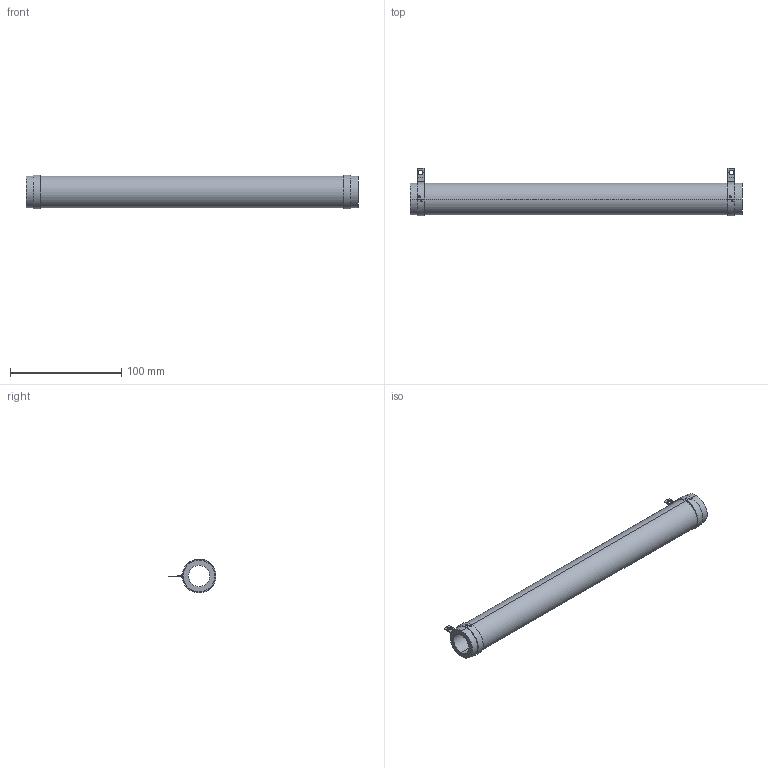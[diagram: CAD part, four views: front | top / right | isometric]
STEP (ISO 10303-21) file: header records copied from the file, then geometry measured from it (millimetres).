
FILE_DESCRIPTION (( 'STEP AP203' ), '1' );
FILE_NAME ('RBEF0420xxxxxKFB00.STEP', '2014-04-04T18:59:17', ( '' ), ( '' ), 'SwSTEP 2.0', 'SolidWorks 2012', '' );
FILE_SCHEMA (( 'CONFIG_CONTROL_DESIGN' ));
Length unit declared in the file: millimetre
Products named in the file (3): DAL013-06_DAL013-135; DAL15-160-XXX_DAL15-160-918-CLOSED; RBEF0420xxxxxKFB00
Assembly tree (3 placements, depth 2):
  RBEF0420xxxxxKFB00
    DAL013-06_DAL013-135
    DAL15-160-XXX_DAL15-160-918-CLOSED  x2
Bounding box: 298.45 x 43.03 x 30.35 mm (x, y, z)
Volume: 107512.8 mm3; surface area: 48472.7 mm2
Topology: 3 solids, 3 shells, 80 faces, 190 edges, 116 vertices
Faces by surface type: plane 42, cylinder 34, bspline 4
Entity records: 1692 total; most frequent: CARTESIAN_POINT 352, DIRECTION 229, ORIENTED_EDGE 202, EDGE_CURVE 101, AXIS2_PLACEMENT_3D 89, VERTEX_POINT 62, VECTOR 51, LINE 51
